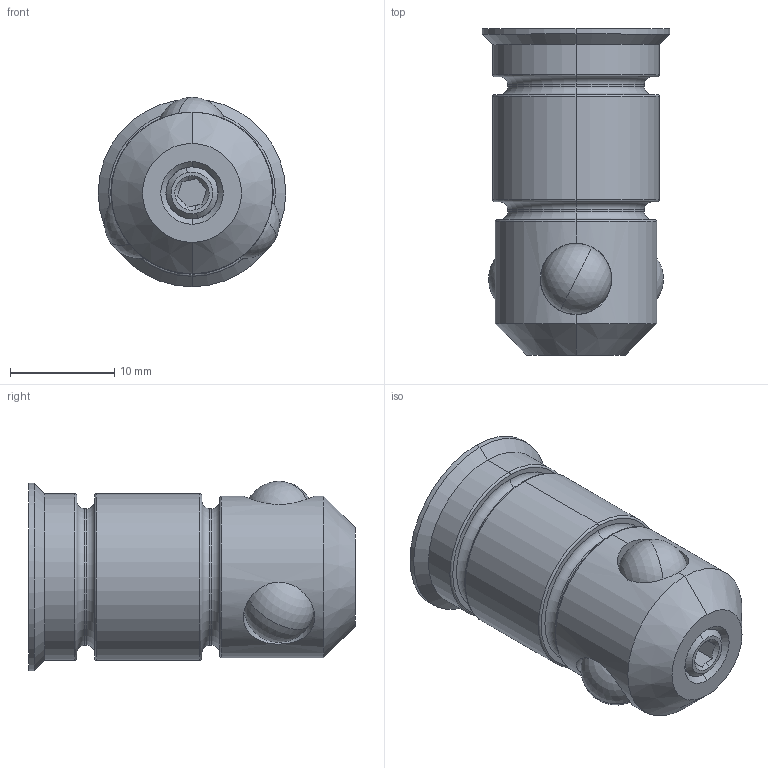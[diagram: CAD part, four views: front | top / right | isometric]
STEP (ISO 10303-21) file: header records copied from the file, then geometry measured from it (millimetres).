
FILE_DESCRIPTION (( 'STEP AP203' ), '1' );
FILE_NAME ('160528.step', '2014-08-11T16:04:25', ( 'User' ), ( '' ), 'SwSTEP 2.0', 'SolidWorks 2014', '' );
FILE_SCHEMA (( 'CONFIG_CONTROL_DESIGN' ));
Length unit declared in the file: millimetre
Products named in the file (5): Gewindestift M5x6 DIN 914^160528_Detailliert; 160528; Koerper^160528_Detailliert; Kugel 6,747^160528; Gewindestift M8x16 DIN 915^160528_Detailliert
Assembly tree (7 placements, depth 2):
  160528
    Koerper^160528_Detailliert
    Kugel 6,747^160528  x4
    Gewindestift M8x16 DIN 915^160528_Detailliert
    Gewindestift M5x6 DIN 914^160528_Detailliert
Bounding box: 18 x 31.3 x 18.18 mm (x, y, z)
Volume: 5202.2 mm3; surface area: 3985.5 mm2
Topology: 7 solids, 7 shells, 99 faces, 230 edges, 142 vertices
Faces by surface type: cylinder 28, plane 25, cone 20, torus 18, sphere 8
Entity records: 3645 total; most frequent: CARTESIAN_POINT 957, DIRECTION 476, ORIENTED_EDGE 408, EDGE_CURVE 204, AXIS2_PLACEMENT_3D 201, VERTEX_POINT 124, EDGE_LOOP 106, CIRCLE 98
